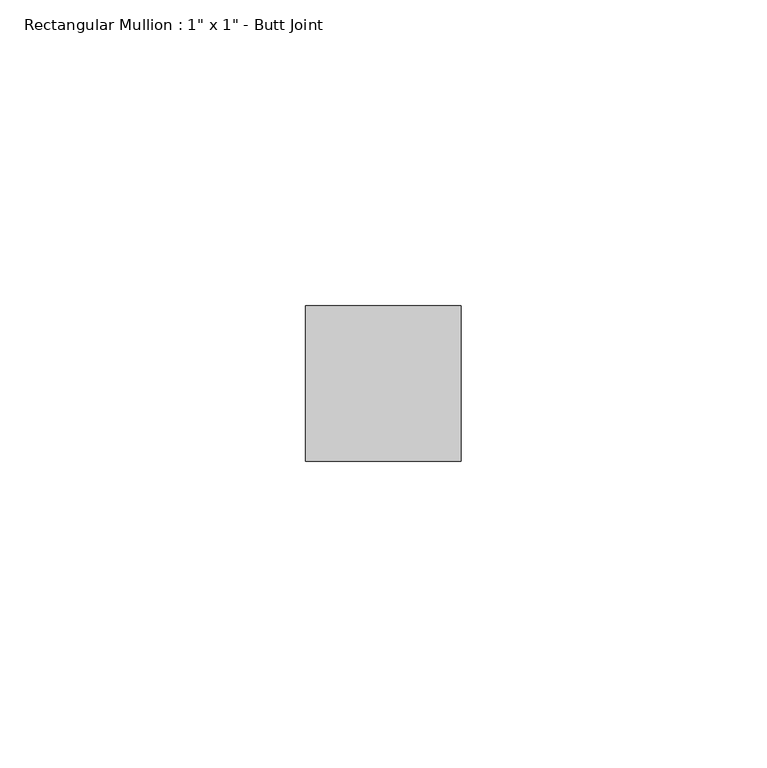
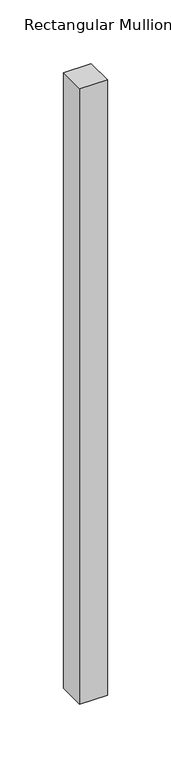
"""IFC4 building model written with IfcOpenShell, lengths in millimetres: member geometry."""

from ifc_helpers import new_model, si_unit, frame, origin, place, context, project, spatial, polyline, outline, extrude, source, transform, mapped, element, save


def member_65fed7da(model_context):
    return source(origin(), model_context, "Body", "SweptSolid", [
        extrude(outline(polyline([(12.7, 12.7), (12.7, -12.7), (-12.7, -12.7), (-12.7, 12.7), (12.7, 12.7)])), frame((0.0, 0.0, -591.8537771), z_axis=(0.0, 0.0, 1.0), x_axis=(1.0, 0.0, 0.0)), (0.0, 0.0, 1.0), 591.8537771),
    ])


if __name__ == "__main__":
    model = new_model("IFC4")
    model_context = context("Model", 3, world=origin())
    ifc_project = project(units=[si_unit("LENGTHUNIT", "METRE", prefix="MILLI")], contexts=[model_context])
    site = spatial("IfcSite", under=ifc_project)
    building = spatial("IfcBuilding", under=site)
    placement = place(None, origin())
    member_shape = member_65fed7da(model_context)
    element("IfcMember", 1, ObjectType="Rectangular Mullion : 1\" x 1\" - Butt Joint", at=placement, inside=building, context=model_context, shape_type="MappedRepresentation", body=[
        mapped(member_shape, transform((0.0, 0.0, 0.0), x_axis=(1.0, 0.0, 0.0), y_axis=(0.0, 1.0, 0.0), z_axis=(0.0, 0.0, 1.0))),
    ])
    save(model, "model.ifc")
